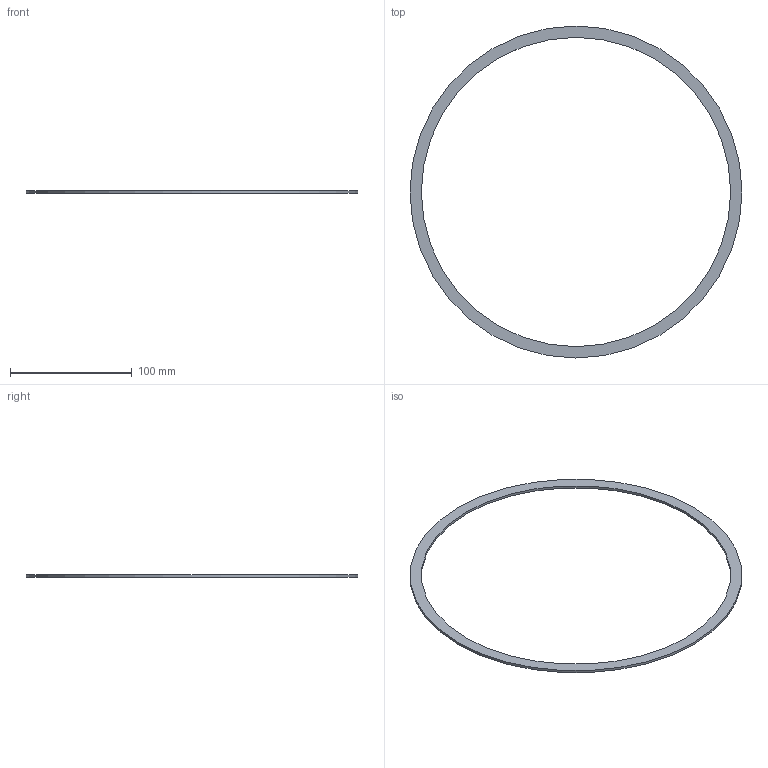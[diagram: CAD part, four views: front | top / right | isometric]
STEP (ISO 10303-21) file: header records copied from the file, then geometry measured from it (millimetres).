
FILE_DESCRIPTION((''),'2;1');
FILE_NAME('W:\13785_CF_Global_Fit_Umsetzung\236_Copper_Gasket_Silver_Plated\M213-467.stp','2010-09-01T15:43:39',('KAA'),(''),'Autodesk Inventor 2011','Autodesk Inventor 2011','');
FILE_SCHEMA(('AUTOMOTIVE_DESIGN { 1 0 10303 214 1 1 1 1 }'));
Length unit declared in the file: millimetre
Products named in the file (1): 213-467
Bounding box: 272.85 x 272.85 x 2.1 mm (x, y, z)
Volume: 16212.1 mm3; surface area: 18917.2 mm2
Topology: 1 solids, 1 shells, 4 faces, 6 edges, 4 vertices
Faces by surface type: cylinder 2, plane 2
Full cylindrical faces by diameter (mm): 254.2 x1, 272.85 x1
Entity records: 114 total; most frequent: DIRECTION 18, CARTESIAN_POINT 13, AXIS2_PLACEMENT_3D 9, ORIENTED_EDGE 8, EDGE_LOOP 8, VERTEX_POINT 4, CIRCLE 4, EDGE_CURVE 4
